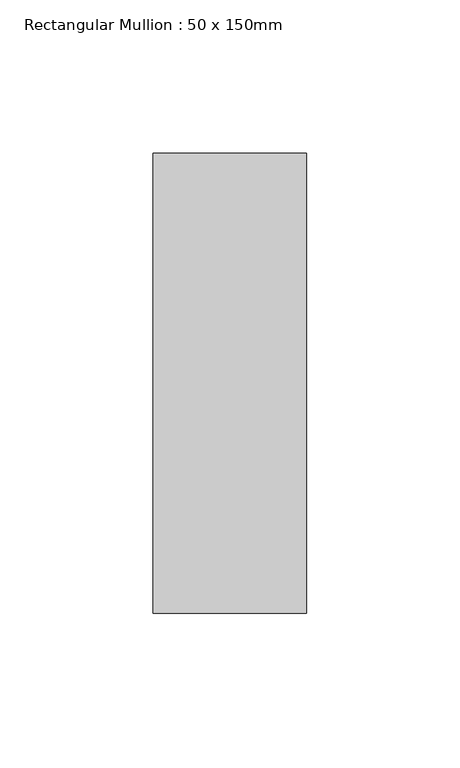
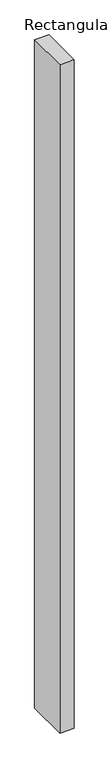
"""IFC4 building model written with IfcOpenShell, lengths in millimetres: member geometry, Rectangular Mullion : 50 x 150mm."""

from ifc_helpers import new_model, si_unit, frame, origin, place, context, project, spatial, polyline, outline, extrude, source, transform, mapped, element, save


def rectangular_mullion_50_x_150mm_4a8db126(model_context):
    return source(origin(), model_context, "Body", "SweptSolid", [
        extrude(outline(polyline([(0.0, 75.0), (0.0, -75.0), (-50.0, -75.0), (-50.0, 75.0), (0.0, 75.0)])), frame((0.0, 0.0, -2438.4), z_axis=(0.0, 0.0, 1.0), x_axis=(1.0, 0.0, 0.0)), (0.0, 0.0, 1.0), 2438.4),
    ])


if __name__ == "__main__":
    model = new_model("IFC4")
    model_context = context("Model", 3, world=origin())
    ifc_project = project(units=[si_unit("LENGTHUNIT", "METRE", prefix="MILLI")], contexts=[model_context])
    site = spatial("IfcSite", under=ifc_project)
    building = spatial("IfcBuilding", under=site)
    placement = place(None, origin())
    rectangular_mullion_50_x_150mm_shape = rectangular_mullion_50_x_150mm_4a8db126(model_context)
    element("IfcMember", 1, ObjectType="Rectangular Mullion : 50 x 150mm", at=placement, inside=building, context=model_context, shape_type="MappedRepresentation", body=[
        mapped(rectangular_mullion_50_x_150mm_shape, transform((0.0, 0.0, 0.0), x_axis=(1.0, 0.0, 0.0), y_axis=(0.0, 1.0, 0.0), z_axis=(0.0, 0.0, 1.0))),
    ])
    save(model, "model.ifc")
